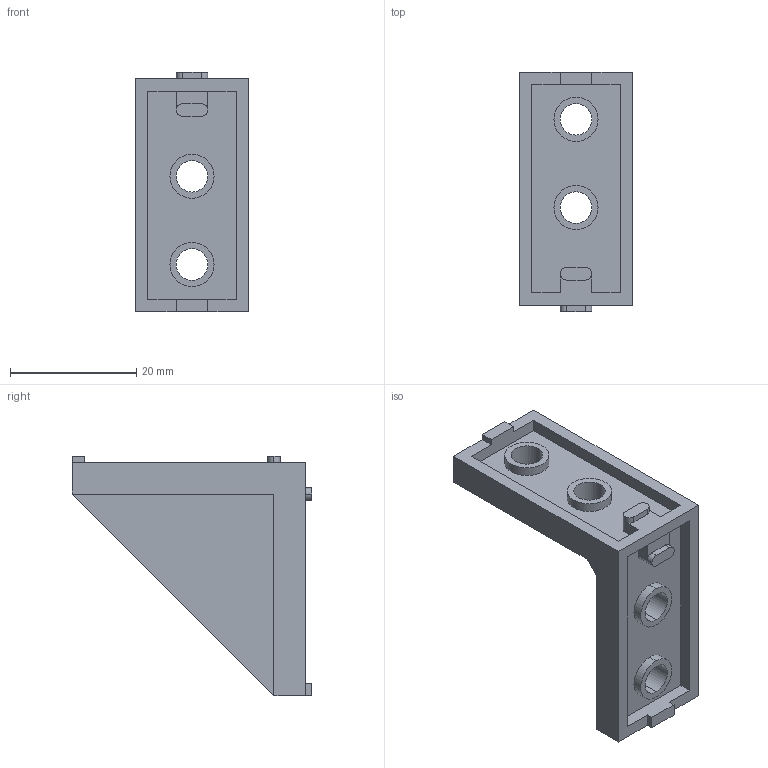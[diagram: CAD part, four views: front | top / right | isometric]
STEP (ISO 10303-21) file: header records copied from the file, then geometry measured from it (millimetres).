
FILE_DESCRIPTION (( 'STEP AP203' ), '1' );
FILE_NAME ('1025.STEP', '2016-03-27T14:33:55', ( '' ), ( '' ), 'SwSTEP 2.0', 'SolidWorks 2014', '' );
FILE_SCHEMA (( 'CONFIG_CONTROL_DESIGN' ));
Length unit declared in the file: millimetre
Products named in the file (1): 1025
Bounding box: 18 x 38.01 x 38 mm (x, y, z)
Volume: 5894.8 mm3; surface area: 5035.8 mm2
Topology: 1 solids, 1 shells, 68 faces, 178 edges, 116 vertices
Faces by surface type: plane 44, cylinder 24
Entity records: 2179 total; most frequent: DIRECTION 364, CARTESIAN_POINT 363, ORIENTED_EDGE 356, EDGE_CURVE 178, VECTOR 130, LINE 130, AXIS2_PLACEMENT_3D 117, VERTEX_POINT 116
